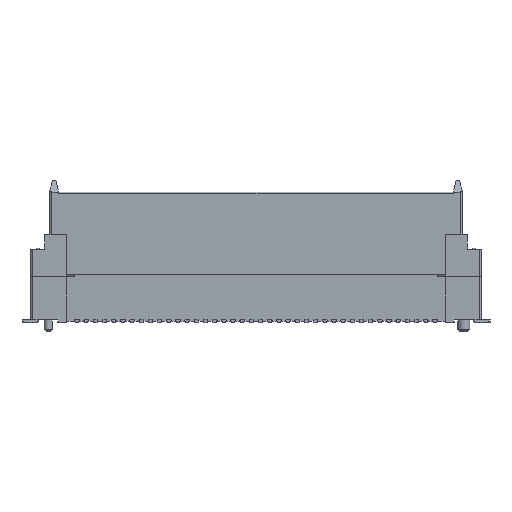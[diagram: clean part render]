
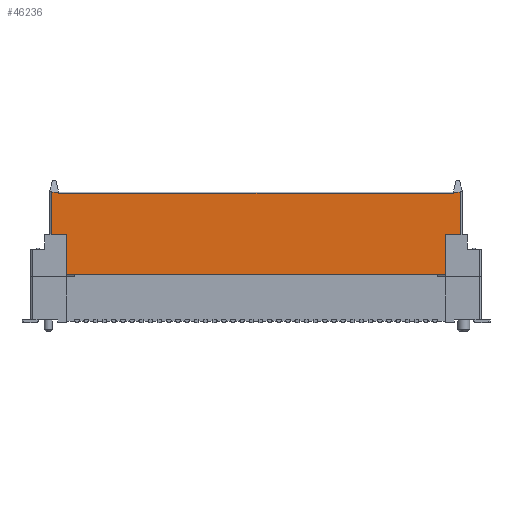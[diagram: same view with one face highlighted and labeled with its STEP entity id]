
A CAD part, front view. The second image highlights one B-rep face of the part: STEP entity #46236.
In plain terms, the highlighted planar face has unit normal (0, -1, 0).
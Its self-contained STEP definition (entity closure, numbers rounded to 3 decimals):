
#43024=CARTESIAN_POINT('Vertex',(-16.55,-2.175,7.65)) ;
#43054=CARTESIAN_POINT('Vertex',(-16.55,-2.175,4.2)) ;
#43057=CARTESIAN_POINT('Line Origine',(-16.55,-2.175,5.925)) ;
#43077=CARTESIAN_POINT('Vertex',(16.55,-2.175,7.65)) ;
#43080=CARTESIAN_POINT('Line Origine',(16.55,-2.175,5.925)) ;
#43084=CARTESIAN_POINT('Vertex',(16.55,-2.175,4.2)) ;
#45269=CARTESIAN_POINT('Vertex',(17.2,-2.175,11.25)) ;
#45285=CARTESIAN_POINT('Vertex',(-17.2,-2.175,11.25)) ;
#45288=CARTESIAN_POINT('Line Origine',(-2.066,-2.175,11.25)) ;
#45325=CARTESIAN_POINT('Vertex',(17.8,-2.175,7.65)) ;
#45328=CARTESIAN_POINT('Line Origine',(17.5,-2.175,7.65)) ;
#45332=CARTESIAN_POINT('Vertex',(17.2,-2.175,7.65)) ;
#45335=CARTESIAN_POINT('Line Origine',(16.875,-2.175,7.65)) ;
#45399=CARTESIAN_POINT('Line Origine',(-16.875,-2.175,7.65)) ;
#45403=CARTESIAN_POINT('Vertex',(-17.2,-2.175,7.65)) ;
#45406=CARTESIAN_POINT('Line Origine',(-17.5,-2.175,7.65)) ;
#45410=CARTESIAN_POINT('Vertex',(-17.8,-2.175,7.65)) ;
#45759=CARTESIAN_POINT('Line Origine',(17.2,-2.175,11.3)) ;
#45763=CARTESIAN_POINT('Vertex',(17.2,-2.175,11.35)) ;
#45781=CARTESIAN_POINT('Vertex',(-17.2,-2.175,11.35)) ;
#45784=CARTESIAN_POINT('Line Origine',(-17.2,-2.175,11.3)) ;
#45841=CARTESIAN_POINT('Line Origine',(-17.8,-2.175,8.275)) ;
#45845=CARTESIAN_POINT('Vertex',(-17.8,-2.175,11.35)) ;
#45885=CARTESIAN_POINT('Line Origine',(0.,-2.175,11.35)) ;
#46173=CARTESIAN_POINT('Line Origine',(17.8,-2.175,8.275)) ;
#46177=CARTESIAN_POINT('Vertex',(17.8,-2.175,11.35)) ;
#46205=CARTESIAN_POINT('Axis2P3D Location',(0.,-2.175,7.65)) ;
#46210=CARTESIAN_POINT('Line Origine',(17.5,-2.175,11.35)) ;
#46215=CARTESIAN_POINT('Line Origine',(0.,-2.175,4.2)) ;
#43058=DIRECTION('Vector Direction',(0.,0.,-1.)) ;
#43081=DIRECTION('Vector Direction',(0.,0.,-1.)) ;
#45289=DIRECTION('Vector Direction',(1.,0.,0.)) ;
#45329=DIRECTION('Vector Direction',(1.,0.,0.)) ;
#45336=DIRECTION('Vector Direction',(1.,0.,0.)) ;
#45400=DIRECTION('Vector Direction',(1.,0.,0.)) ;
#45407=DIRECTION('Vector Direction',(-1.,0.,0.)) ;
#45760=DIRECTION('Vector Direction',(0.,0.,1.)) ;
#45785=DIRECTION('Vector Direction',(0.,0.,1.)) ;
#45842=DIRECTION('Vector Direction',(0.,0.,1.)) ;
#45886=DIRECTION('Vector Direction',(-1.,0.,0.)) ;
#46174=DIRECTION('Vector Direction',(0.,0.,1.)) ;
#46206=DIRECTION('Axis2P3D Direction',(0.,1.,0.)) ;
#46207=DIRECTION('Axis2P3D XDirection',(0.,0.,1.)) ;
#46211=DIRECTION('Vector Direction',(-1.,0.,0.)) ;
#46216=DIRECTION('Vector Direction',(-1.,0.,0.)) ;
#46208=AXIS2_PLACEMENT_3D('Plane Axis2P3D',#46205,#46206,#46207) ;
#46221=ORIENTED_EDGE('',*,*,#46214,.F.) ;
#46222=ORIENTED_EDGE('',*,*,#45765,.F.) ;
#46223=ORIENTED_EDGE('',*,*,#45292,.F.) ;
#46224=ORIENTED_EDGE('',*,*,#45788,.F.) ;
#46225=ORIENTED_EDGE('',*,*,#45889,.F.) ;
#46226=ORIENTED_EDGE('',*,*,#45847,.F.) ;
#46227=ORIENTED_EDGE('',*,*,#45412,.T.) ;
#46228=ORIENTED_EDGE('',*,*,#45405,.T.) ;
#46229=ORIENTED_EDGE('',*,*,#43061,.T.) ;
#46230=ORIENTED_EDGE('',*,*,#46219,.F.) ;
#46231=ORIENTED_EDGE('',*,*,#43086,.F.) ;
#46232=ORIENTED_EDGE('',*,*,#45339,.T.) ;
#46233=ORIENTED_EDGE('',*,*,#45334,.T.) ;
#46234=ORIENTED_EDGE('',*,*,#46179,.T.) ;
#43059=VECTOR('Line Direction',#43058,1.) ;
#43082=VECTOR('Line Direction',#43081,1.) ;
#45290=VECTOR('Line Direction',#45289,1.) ;
#45330=VECTOR('Line Direction',#45329,1.) ;
#45337=VECTOR('Line Direction',#45336,1.) ;
#45401=VECTOR('Line Direction',#45400,1.) ;
#45408=VECTOR('Line Direction',#45407,1.) ;
#45761=VECTOR('Line Direction',#45760,1.) ;
#45786=VECTOR('Line Direction',#45785,1.) ;
#45843=VECTOR('Line Direction',#45842,1.) ;
#45887=VECTOR('Line Direction',#45886,1.) ;
#46175=VECTOR('Line Direction',#46174,1.) ;
#46212=VECTOR('Line Direction',#46211,1.) ;
#46217=VECTOR('Line Direction',#46216,1.) ;
#46236=ADVANCED_FACE('\X2\585180F6\X0\2',(#46235),#46209,.F.) ;
#43061=EDGE_CURVE('',#43025,#43055,#43060,.T.) ;
#43086=EDGE_CURVE('',#43078,#43085,#43083,.T.) ;
#45292=EDGE_CURVE('',#45286,#45270,#45291,.T.) ;
#45334=EDGE_CURVE('',#45333,#45326,#45331,.T.) ;
#45339=EDGE_CURVE('',#43078,#45333,#45338,.T.) ;
#45405=EDGE_CURVE('',#45404,#43025,#45402,.T.) ;
#45412=EDGE_CURVE('',#45411,#45404,#45409,.F.) ;
#45765=EDGE_CURVE('',#45270,#45764,#45762,.T.) ;
#45788=EDGE_CURVE('',#45782,#45286,#45787,.F.) ;
#45847=EDGE_CURVE('',#45411,#45846,#45844,.T.) ;
#45889=EDGE_CURVE('',#45846,#45782,#45888,.F.) ;
#46179=EDGE_CURVE('',#45326,#46178,#46176,.T.) ;
#46214=EDGE_CURVE('',#45764,#46178,#46213,.F.) ;
#46219=EDGE_CURVE('',#43085,#43055,#46218,.T.) ;
#46220=EDGE_LOOP('',(#46221,#46222,#46223,#46224,#46225,#46226,#46227,#46228,#46229,#46230,#46231,#46232,#46233,#46234)) ;
#46235=FACE_OUTER_BOUND('',#46220,.T.) ;
#43060=LINE('Line',#43057,#43059) ;
#43083=LINE('Line',#43080,#43082) ;
#45291=LINE('Line',#45288,#45290) ;
#45331=LINE('Line',#45328,#45330) ;
#45338=LINE('Line',#45335,#45337) ;
#45402=LINE('Line',#45399,#45401) ;
#45409=LINE('Line',#45406,#45408) ;
#45762=LINE('Line',#45759,#45761) ;
#45787=LINE('Line',#45784,#45786) ;
#45844=LINE('Line',#45841,#45843) ;
#45888=LINE('Line',#45885,#45887) ;
#46176=LINE('Line',#46173,#46175) ;
#46213=LINE('Line',#46210,#46212) ;
#46218=LINE('Line',#46215,#46217) ;
#46209=PLANE('Plane',#46208) ;
#43025=VERTEX_POINT('',#43024) ;
#43055=VERTEX_POINT('',#43054) ;
#43078=VERTEX_POINT('',#43077) ;
#43085=VERTEX_POINT('',#43084) ;
#45270=VERTEX_POINT('',#45269) ;
#45286=VERTEX_POINT('',#45285) ;
#45326=VERTEX_POINT('',#45325) ;
#45333=VERTEX_POINT('',#45332) ;
#45404=VERTEX_POINT('',#45403) ;
#45411=VERTEX_POINT('',#45410) ;
#45764=VERTEX_POINT('',#45763) ;
#45782=VERTEX_POINT('',#45781) ;
#45846=VERTEX_POINT('',#45845) ;
#46178=VERTEX_POINT('',#46177) ;
